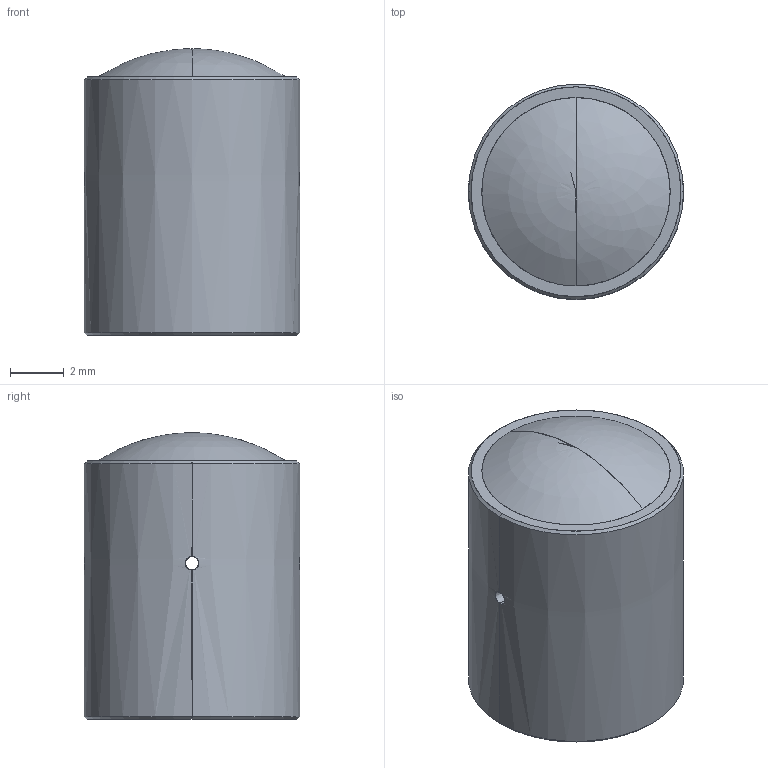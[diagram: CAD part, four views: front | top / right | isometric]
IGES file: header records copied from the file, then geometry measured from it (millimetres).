
Start section: SolidWorks IGES file using analytic representation for surfaces
Global section: file name: E:\00. WORK\堡拳捞滚 OMD\02. 权其捞瘤 档搁\3D\33.FTL-M26V3\FTL-M26V3.IGS; native system: SolidWorks 2018; preprocessor: SolidWorks 2018; author: 10116024; date: 201031.155751; units: millimetre
Bounding box: 8 x 8 x 10.65 mm (x, y, z)
Surface area: 388.6 mm2 (no closed solid volume)
Topology: 0 solids, 0 shells, 31 faces, 563 edges, 562 vertices
Faces by surface type: revolution 24, bspline 7
